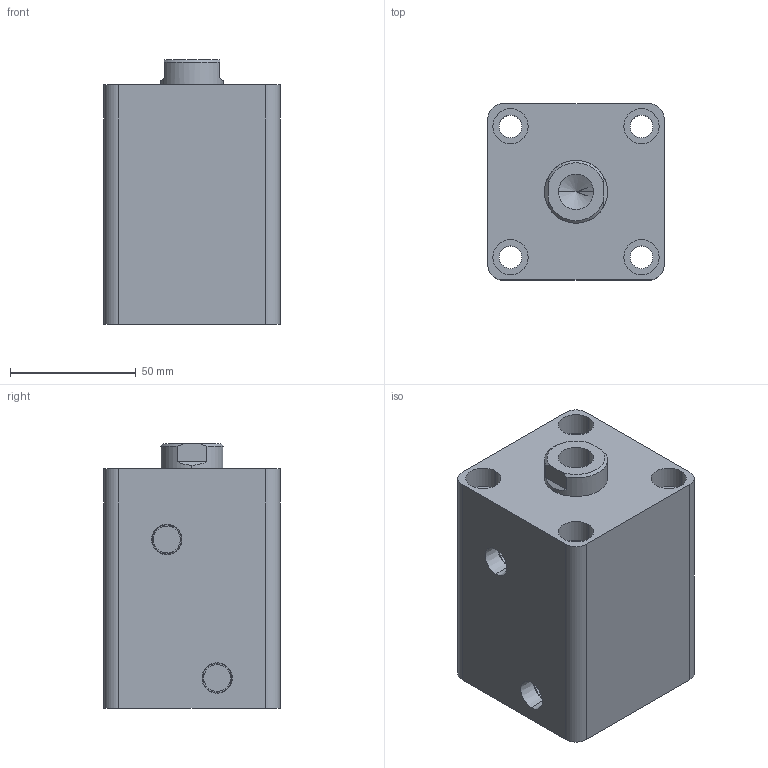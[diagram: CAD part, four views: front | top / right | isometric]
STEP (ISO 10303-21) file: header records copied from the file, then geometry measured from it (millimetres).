
FILE_DESCRIPTION (( 'STEP AP203' ), '1' );
FILE_NAME ('HTB-SD40-40N.STEP', '2019-10-07T06:50:52', ( '微软用户' ), ( '微软中国' ), 'SwSTEP 2.0', 'SolidWorks 2012', '' );
FILE_SCHEMA (( 'CONFIG_CONTROL_DESIGN' ));
Length unit declared in the file: millimetre
Products named in the file (3): HTB-SD40-40N; HTB-SD40-40掛极; HTB-SD40-40N活塞杆
Assembly tree (2 placements, depth 2):
  HTB-SD40-40N
    HTB-SD40-40掛极
    HTB-SD40-40N活塞杆
Bounding box: 70 x 70 x 105 mm (x, y, z)
Volume: 400713.7 mm3; surface area: 69960.3 mm2
Topology: 2 solids, 2 shells, 81 faces, 180 edges, 117 vertices
Faces by surface type: cylinder 42, plane 27, cone 8, torus 4
Entity records: 2603 total; most frequent: DIRECTION 444, CARTESIAN_POINT 409, ORIENTED_EDGE 356, AXIS2_PLACEMENT_3D 188, EDGE_CURVE 178, VERTEX_POINT 117, EDGE_LOOP 105, CIRCLE 102
